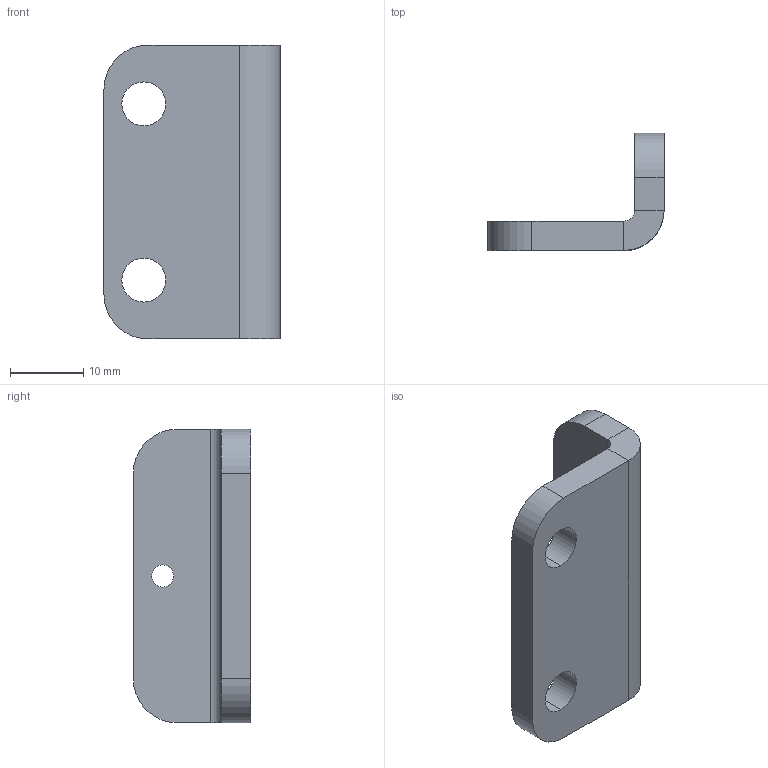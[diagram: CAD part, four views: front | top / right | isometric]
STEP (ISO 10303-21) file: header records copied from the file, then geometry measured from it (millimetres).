
FILE_DESCRIPTION (( 'STEP AP214' ), '1' );
FILE_NAME ('Base Mounting Bracket.STEP', '2026-04-30T16:19:57', ( '' ), ( '' ), 'SwSTEP 2.0', 'SolidWorks 2022', '' );
FILE_SCHEMA (( 'AUTOMOTIVE_DESIGN' ));
Length unit declared in the file: millimetre
Products named in the file (1): Base Mounting Bracket
Bounding box: 24 x 16 x 40 mm (x, y, z)
Volume: 5141.6 mm3; surface area: 3314.1 mm2
Topology: 1 solids, 1 shells, 24 faces, 58 edges, 36 vertices
Faces by surface type: cylinder 12, plane 12
Entity records: 748 total; most frequent: DIRECTION 132, CARTESIAN_POINT 119, ORIENTED_EDGE 116, EDGE_CURVE 58, AXIS2_PLACEMENT_3D 49, VERTEX_POINT 36, VECTOR 34, LINE 34
